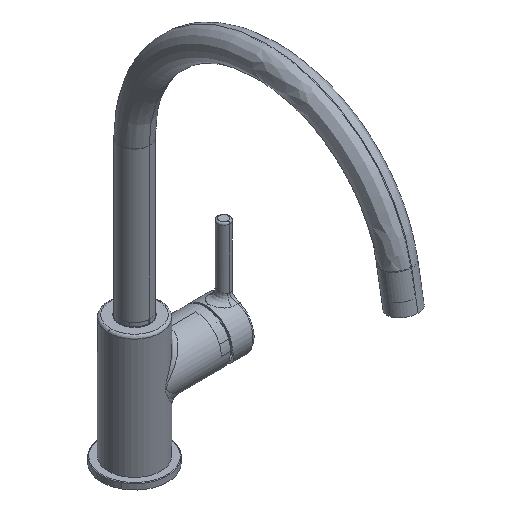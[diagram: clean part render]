
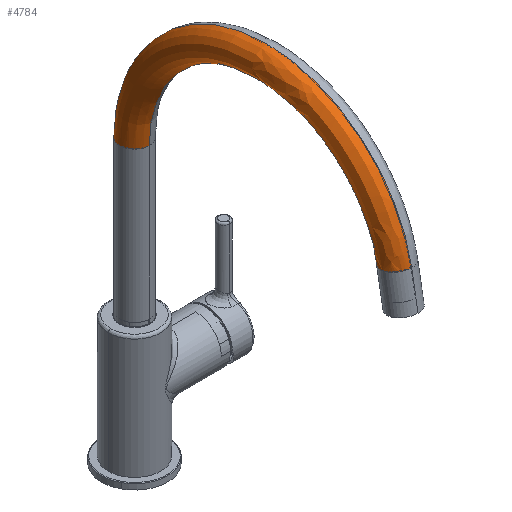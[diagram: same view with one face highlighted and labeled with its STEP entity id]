
A CAD part, isometric view. The second image highlights one B-rep face of the part: STEP entity #4784.
In plain terms, the highlighted free-form (B-spline) face has degree [2, 2] with [9, 9] control points.
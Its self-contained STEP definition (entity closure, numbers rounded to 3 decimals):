
#1101=TRIMMED_CURVE($,#1655,(#61518),(#61519),.T.,.CARTESIAN.);
#1102=TRIMMED_CURVE($,#1656,(#61521),(#61522),.T.,.CARTESIAN.);
#1103=TRIMMED_CURVE($,#1657,(#61524),(#61525),.T.,.CARTESIAN.);
#1104=TRIMMED_CURVE($,#1658,(#61527),(#61528),.T.,.CARTESIAN.);
#1655=CIRCLE('',#33233,12.);
#1656=CIRCLE('',#33234,12.);
#1657=CIRCLE('',#33235,96.219);
#1658=CIRCLE('',#33236,120.219);
#2714=(
BOUNDED_SURFACE()
B_SPLINE_SURFACE(2,2,((#61060,#61061,#61062,#61063,#61064,#61065,#61066,
#61067,#61068),(#61069,#61070,#61071,#61072,#61073,#61074,#61075,#61076,
#61077),(#61078,#61079,#61080,#61081,#61082,#61083,#61084,#61085,#61086),
(#61087,#61088,#61089,#61090,#61091,#61092,#61093,#61094,#61095),(#61096,
#61097,#61098,#61099,#61100,#61101,#61102,#61103,#61104),(#61105,#61106,
#61107,#61108,#61109,#61110,#61111,#61112,#61113),(#61114,#61115,#61116,
#61117,#61118,#61119,#61120,#61121,#61122),(#61123,#61124,#61125,#61126,
#61127,#61128,#61129,#61130,#61131),(#61132,#61133,#61134,#61135,#61136,
#61137,#61138,#61139,#61140)),.UNSPECIFIED.,.T.,.F.,.F.)
B_SPLINE_SURFACE_WITH_KNOTS((3,2,2,2,3),(3,2,2,2,3),(0.,169.99,
339.979,509.969,679.958),(0.,18.85,
37.699,56.549,75.398),.UNSPECIFIED.)
GEOMETRIC_REPRESENTATION_ITEM()
RATIONAL_B_SPLINE_SURFACE(((1.,0.707,1.,0.707,1.,
0.707,1.,0.707,1.),(0.707,0.5,0.707,
0.5,0.707,0.5,0.707,0.5,0.707),(1.,
0.707,1.,0.707,1.,0.707,1.,0.707,
1.),(0.707,0.5,0.707,0.5,0.707,0.5,
0.707,0.5,0.707),(1.,0.707,1.,0.707,
1.,0.707,1.,0.707,1.),(0.707,0.5,0.707,
0.5,0.707,0.5,0.707,0.5,0.707),(1.,
0.707,1.,0.707,1.,0.707,1.,0.707,
1.),(0.707,0.5,0.707,0.5,0.707,0.5,
0.707,0.5,0.707),(1.,0.707,1.,0.707,
1.,0.707,1.,0.707,1.)))
REPRESENTATION_ITEM('')
SURFACE()
);
#4784=ADVANCED_FACE('',(#6931),#2714,.T.);
#6931=FACE_OUTER_BOUND('',#9063,.T.);
#9063=EDGE_LOOP('',(#18179,#18180,#18181,#18182));
#18179=ORIENTED_EDGE('',*,*,#23039,.F.);
#18180=ORIENTED_EDGE('',*,*,#23041,.T.);
#18181=ORIENTED_EDGE('',*,*,#23040,.T.);
#18182=ORIENTED_EDGE('',*,*,#23042,.F.);
#23039=EDGE_CURVE('',#29286,#29287,#1101,.T.);
#23040=EDGE_CURVE('',#29288,#29289,#1102,.T.);
#23041=EDGE_CURVE('',#29286,#29288,#1103,.T.);
#23042=EDGE_CURVE('',#29287,#29289,#1104,.T.);
#29286=VERTEX_POINT('',#61476);
#29287=VERTEX_POINT('',#61477);
#29288=VERTEX_POINT('',#61478);
#29289=VERTEX_POINT('',#61479);
#33233=AXIS2_PLACEMENT_3D($,#61517,#36147,#36148);
#33234=AXIS2_PLACEMENT_3D($,#61520,#36149,#36150);
#33235=AXIS2_PLACEMENT_3D($,#61523,#36151,#36152);
#33236=AXIS2_PLACEMENT_3D($,#61526,#36153,#36154);
#36147=DIRECTION('',(0.,0.,-1.));
#36148=DIRECTION('',(-1.,0.,0.));
#36149=DIRECTION('',(0.173,0.,0.985));
#36150=DIRECTION('',(0.985,0.,-0.173));
#36151=DIRECTION('',(0.,-1.,0.));
#36152=DIRECTION('',(1.,0.,0.));
#36153=DIRECTION('',(0.,-1.,0.));
#36154=DIRECTION('',(1.,0.,0.));
#61060=CARTESIAN_POINT('',(-228.437,0.,124.731));
#61061=CARTESIAN_POINT('',(-228.437,-12.,124.731));
#61062=CARTESIAN_POINT('',(-216.437,-12.,124.731));
#61063=CARTESIAN_POINT('',(-204.437,-12.,124.731));
#61064=CARTESIAN_POINT('',(-204.437,0.,124.731));
#61065=CARTESIAN_POINT('',(-204.437,12.,124.731));
#61066=CARTESIAN_POINT('',(-216.437,12.,124.731));
#61067=CARTESIAN_POINT('',(-228.437,12.,124.731));
#61068=CARTESIAN_POINT('',(-228.437,0.,124.731));
#61069=CARTESIAN_POINT('',(-228.437,0.,4.513));
#61070=CARTESIAN_POINT('',(-228.437,-12.,4.513));
#61071=CARTESIAN_POINT('',(-216.437,-12.,16.513));
#61072=CARTESIAN_POINT('',(-204.437,-12.,28.513));
#61073=CARTESIAN_POINT('',(-204.437,0.,28.513));
#61074=CARTESIAN_POINT('',(-204.437,12.,28.513));
#61075=CARTESIAN_POINT('',(-216.437,12.,16.513));
#61076=CARTESIAN_POINT('',(-228.437,12.,4.513));
#61077=CARTESIAN_POINT('',(-228.437,0.,4.513));
#61078=CARTESIAN_POINT('',(-108.219,0.,4.513));
#61079=CARTESIAN_POINT('',(-108.219,-12.,4.513));
#61080=CARTESIAN_POINT('',(-108.219,-12.,16.513));
#61081=CARTESIAN_POINT('',(-108.219,-12.,28.513));
#61082=CARTESIAN_POINT('',(-108.219,0.,28.513));
#61083=CARTESIAN_POINT('',(-108.219,12.,28.513));
#61084=CARTESIAN_POINT('',(-108.219,12.,16.513));
#61085=CARTESIAN_POINT('',(-108.219,12.,4.513));
#61086=CARTESIAN_POINT('',(-108.219,0.,4.513));
#61087=CARTESIAN_POINT('',(12.,0.,4.513));
#61088=CARTESIAN_POINT('',(12.,-12.,4.513));
#61089=CARTESIAN_POINT('',(0.,-12.,16.513));
#61090=CARTESIAN_POINT('',(-12.,-12.,28.513));
#61091=CARTESIAN_POINT('',(-12.,0.,28.513));
#61092=CARTESIAN_POINT('',(-12.,12.,28.513));
#61093=CARTESIAN_POINT('',(0.,12.,16.513));
#61094=CARTESIAN_POINT('',(12.,12.,4.513));
#61095=CARTESIAN_POINT('',(12.,0.,4.513));
#61096=CARTESIAN_POINT('',(12.,0.,124.731));
#61097=CARTESIAN_POINT('',(12.,-12.,124.731));
#61098=CARTESIAN_POINT('',(0.,-12.,124.731));
#61099=CARTESIAN_POINT('',(-12.,-12.,124.731));
#61100=CARTESIAN_POINT('',(-12.,0.,124.731));
#61101=CARTESIAN_POINT('',(-12.,12.,124.731));
#61102=CARTESIAN_POINT('',(0.,12.,124.731));
#61103=CARTESIAN_POINT('',(12.,12.,124.731));
#61104=CARTESIAN_POINT('',(12.,0.,124.731));
#61105=CARTESIAN_POINT('',(12.,0.,244.95));
#61106=CARTESIAN_POINT('',(12.,-12.,244.95));
#61107=CARTESIAN_POINT('',(0.,-12.,232.95));
#61108=CARTESIAN_POINT('',(-12.,-12.,220.95));
#61109=CARTESIAN_POINT('',(-12.,0.,220.95));
#61110=CARTESIAN_POINT('',(-12.,12.,220.95));
#61111=CARTESIAN_POINT('',(0.,12.,232.95));
#61112=CARTESIAN_POINT('',(12.,12.,244.95));
#61113=CARTESIAN_POINT('',(12.,0.,244.95));
#61114=CARTESIAN_POINT('',(-108.219,0.,244.95));
#61115=CARTESIAN_POINT('',(-108.219,-12.,244.95));
#61116=CARTESIAN_POINT('',(-108.219,-12.,232.95));
#61117=CARTESIAN_POINT('',(-108.219,-12.,220.95));
#61118=CARTESIAN_POINT('',(-108.219,0.,220.95));
#61119=CARTESIAN_POINT('',(-108.219,12.,220.95));
#61120=CARTESIAN_POINT('',(-108.219,12.,232.95));
#61121=CARTESIAN_POINT('',(-108.219,12.,244.95));
#61122=CARTESIAN_POINT('',(-108.219,0.,244.95));
#61123=CARTESIAN_POINT('',(-228.437,0.,244.95));
#61124=CARTESIAN_POINT('',(-228.437,-12.,244.95));
#61125=CARTESIAN_POINT('',(-216.437,-12.,232.95));
#61126=CARTESIAN_POINT('',(-204.437,-12.,220.95));
#61127=CARTESIAN_POINT('',(-204.437,0.,220.95));
#61128=CARTESIAN_POINT('',(-204.437,12.,220.95));
#61129=CARTESIAN_POINT('',(-216.437,12.,232.95));
#61130=CARTESIAN_POINT('',(-228.437,12.,244.95));
#61131=CARTESIAN_POINT('',(-228.437,0.,244.95));
#61132=CARTESIAN_POINT('',(-228.437,0.,124.731));
#61133=CARTESIAN_POINT('',(-228.437,-12.,124.731));
#61134=CARTESIAN_POINT('',(-216.437,-12.,124.731));
#61135=CARTESIAN_POINT('',(-204.437,-12.,124.731));
#61136=CARTESIAN_POINT('',(-204.437,0.,124.731));
#61137=CARTESIAN_POINT('',(-204.437,12.,124.731));
#61138=CARTESIAN_POINT('',(-216.437,12.,124.731));
#61139=CARTESIAN_POINT('',(-228.437,12.,124.731));
#61140=CARTESIAN_POINT('',(-228.437,0.,124.731));
#61476=CARTESIAN_POINT('',(-12.,0.,124.731));
#61477=CARTESIAN_POINT('',(12.,0.,124.731));
#61478=CARTESIAN_POINT('',(-202.98,0.,141.415));
#61479=CARTESIAN_POINT('',(-226.616,0.,145.576));
#61517=CARTESIAN_POINT('',(0.,0.,124.731));
#61518=CARTESIAN_POINT('',(-12.,0.,124.731));
#61519=CARTESIAN_POINT('',(12.,0.,124.731));
#61520=CARTESIAN_POINT('',(-214.798,0.,143.496));
#61521=CARTESIAN_POINT('',(-202.98,0.,141.415));
#61522=CARTESIAN_POINT('',(-226.616,0.,145.576));
#61523=CARTESIAN_POINT('',(-108.219,0.,124.731));
#61524=CARTESIAN_POINT('',(-12.,0.,124.731));
#61525=CARTESIAN_POINT('',(-202.98,0.,141.415));
#61526=CARTESIAN_POINT('',(-108.219,0.,124.731));
#61527=CARTESIAN_POINT('',(12.,0.,124.731));
#61528=CARTESIAN_POINT('',(-226.616,0.,145.576));
